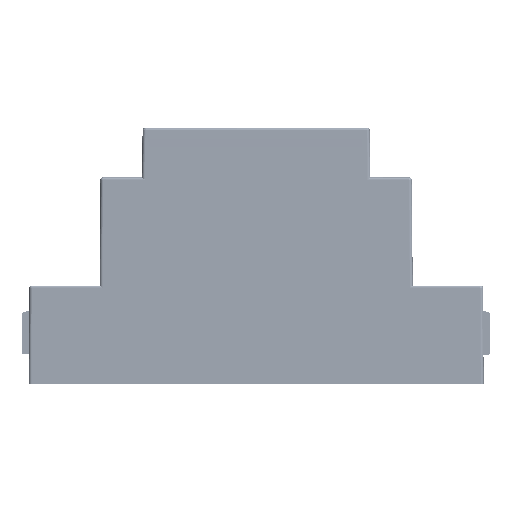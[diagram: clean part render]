
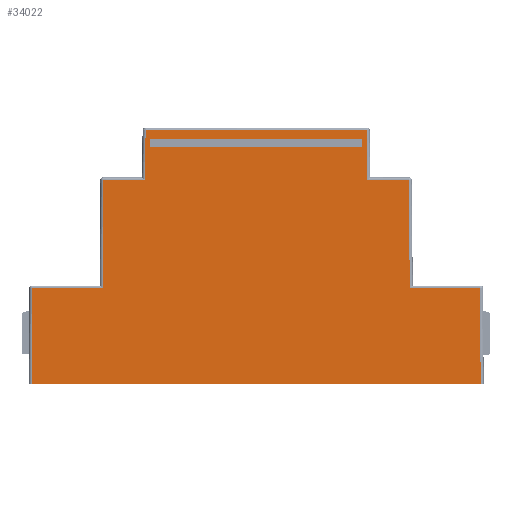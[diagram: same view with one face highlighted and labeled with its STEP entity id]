
A CAD part, front view. The second image highlights one B-rep face of the part: STEP entity #34022.
In plain terms, the highlighted planar face has unit normal (0, -1, 0.009).
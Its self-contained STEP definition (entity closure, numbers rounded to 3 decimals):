
#1642 = CARTESIAN_POINT ( 'NONE',  ( 21.908, -43.461, 50.304 ) ) ;
#2641 = VECTOR ( 'NONE', #312687, 1000. ) ;
#4143 = VERTEX_POINT ( 'NONE', #245751 ) ;
#4402 = CARTESIAN_POINT ( 'NONE',  ( 44.401, -43.734, 19.054 ) ) ;
#5819 = CARTESIAN_POINT ( 'NONE',  ( 30.264, -43.547, 40.504 ) ) ;
#12538 = ORIENTED_EDGE ( 'NONE', *, *, #246697, .F. ) ;
#13570 = CARTESIAN_POINT ( 'NONE',  ( -21.06, -43.49, 46.992 ) ) ;
#20043 = CARTESIAN_POINT ( 'NONE',  ( 0., -43.734, 19.054 ) ) ;
#29622 = DIRECTION ( 'NONE',  ( 1., 0., 0. ) ) ;
#31890 = VERTEX_POINT ( 'NONE', #65861 ) ;
#34022 = ADVANCED_FACE ( 'NONE', ( #205511, #173860 ), #224957, .F. ) ;
#35131 = LINE ( 'NONE', #140511, #156363 ) ;
#37567 = VECTOR ( 'NONE', #29622, 1000. ) ;
#40114 = CARTESIAN_POINT ( 'NONE',  ( -21.908, -43.461, 50.304 ) ) ;
#45057 = ORIENTED_EDGE ( 'NONE', *, *, #201772, .T. ) ;
#45504 = CARTESIAN_POINT ( 'NONE',  ( -44.468, -43.845, 6.351 ) ) ;
#45659 = EDGE_CURVE ( 'NONE', #75614, #31890, #56501, .T. ) ;
#48576 = VERTEX_POINT ( 'NONE', #73511 ) ;
#50215 = DIRECTION ( 'NONE',  ( 1., 0., 0. ) ) ;
#56501 = LINE ( 'NONE', #216263, #156416 ) ;
#65861 = CARTESIAN_POINT ( 'NONE',  ( 30.264, -43.547, 40.504 ) ) ;
#69721 = VECTOR ( 'NONE', #131749, 1000. ) ;
#72285 = CARTESIAN_POINT ( 'NONE',  ( 0., -43.461, 50.304 ) ) ;
#73511 = CARTESIAN_POINT ( 'NONE',  ( -21.036, -43.483, 48.5 ) ) ;
#75614 = VERTEX_POINT ( 'NONE', #129495 ) ;
#76779 = VECTOR ( 'NONE', #143249, 1000. ) ;
#78382 = LINE ( 'NONE', #124002, #163735 ) ;
#80870 = VECTOR ( 'NONE', #113416, 1000. ) ;
#84187 = VERTEX_POINT ( 'NONE', #1642 ) ;
#85304 = EDGE_CURVE ( 'NONE', #107102, #89004, #197154, .T. ) ;
#85896 = EDGE_LOOP ( 'NONE', ( #185722, #311364, #255144, #310492 ) ) ;
#86269 = DIRECTION ( 'NONE',  ( 0.016, -0.009, -1. ) ) ;
#88773 = AXIS2_PLACEMENT_3D ( 'NONE', #145795, #312748, #305843 ) ;
#89004 = VERTEX_POINT ( 'NONE', #278499 ) ;
#89008 = CARTESIAN_POINT ( 'NONE',  ( -22.062, -43.547, 40.504 ) ) ;
#89171 = CARTESIAN_POINT ( 'NONE',  ( -30.264, -43.547, 40.504 ) ) ;
#92316 = EDGE_LOOP ( 'NONE', ( #102520, #94581, #295488, #286866, #185858, #184287, #246589, #218729, #12538, #169421, #45057, #274988 ) ) ;
#94581 = ORIENTED_EDGE ( 'NONE', *, *, #126406, .F. ) ;
#95771 = LINE ( 'NONE', #20043, #166875 ) ;
#95816 = VERTEX_POINT ( 'NONE', #128464 ) ;
#96648 = LINE ( 'NONE', #309237, #2641 ) ;
#99733 = EDGE_CURVE ( 'NONE', #84187, #75614, #35131, .T. ) ;
#102520 = ORIENTED_EDGE ( 'NONE', *, *, #324737, .F. ) ;
#107102 = VERTEX_POINT ( 'NONE', #280847 ) ;
#107197 = LINE ( 'NONE', #72285, #69721 ) ;
#113416 = DIRECTION ( 'NONE',  ( 0.005, -0.009, -1. ) ) ;
#116852 = LINE ( 'NONE', #4402, #80870 ) ;
#117370 = CARTESIAN_POINT ( 'NONE',  ( -21.036, -43.483, 48.5 ) ) ;
#118210 = DIRECTION ( 'NONE',  ( 0.009, -0.009, -1. ) ) ;
#119138 = VECTOR ( 'NONE', #188209, 1000. ) ;
#121129 = CARTESIAN_POINT ( 'NONE',  ( 21.052, -43.486, 47.495 ) ) ;
#124002 = CARTESIAN_POINT ( 'NONE',  ( 0., -43.734, 19.054 ) ) ;
#125896 = EDGE_CURVE ( 'NONE', #319489, #48576, #308384, .T. ) ;
#126258 = CARTESIAN_POINT ( 'NONE',  ( -44.401, -43.734, 19.054 ) ) ;
#126279 = CARTESIAN_POINT ( 'NONE',  ( 44.401, -43.734, 19.054 ) ) ;
#126406 = EDGE_CURVE ( 'NONE', #31890, #148941, #273004, .T. ) ;
#128419 = CARTESIAN_POINT ( 'NONE',  ( -44.501, -43.9, 0. ) ) ;
#128464 = CARTESIAN_POINT ( 'NONE',  ( -22.062, -43.547, 40.504 ) ) ;
#129495 = CARTESIAN_POINT ( 'NONE',  ( 22.062, -43.547, 40.504 ) ) ;
#131749 = DIRECTION ( 'NONE',  ( 1., 0., 0. ) ) ;
#139905 = CARTESIAN_POINT ( 'NONE',  ( -21.06, -43.49, 46.992 ) ) ;
#140511 = CARTESIAN_POINT ( 'NONE',  ( 21.908, -43.461, 50.304 ) ) ;
#143249 = DIRECTION ( 'NONE',  ( 0.016, 0.009, 1. ) ) ;
#145795 = CARTESIAN_POINT ( 'NONE',  ( 0., -43.681, 25.152 ) ) ;
#148941 = VERTEX_POINT ( 'NONE', #184478 ) ;
#156363 = VECTOR ( 'NONE', #86269, 1000. ) ;
#156416 = VECTOR ( 'NONE', #212849, 1000. ) ;
#156447 = CARTESIAN_POINT ( 'NONE',  ( -44.401, -43.734, 19.054 ) ) ;
#162151 = VERTEX_POINT ( 'NONE', #156447 ) ;
#163735 = VECTOR ( 'NONE', #50215, 1000. ) ;
#166312 = CARTESIAN_POINT ( 'NONE',  ( -30.452, -43.734, 19.054 ) ) ;
#166875 = VECTOR ( 'NONE', #232642, 1000. ) ;
#169421 = ORIENTED_EDGE ( 'NONE', *, *, #333824, .F. ) ;
#170375 = CARTESIAN_POINT ( 'NONE',  ( 21.044, -43.481, 47.997 ) ) ;
#173023 = LINE ( 'NONE', #89008, #76779 ) ;
#173860 = FACE_OUTER_BOUND ( 'NONE', #92316, .T. ) ;
#176975 = EDGE_CURVE ( 'NONE', #277054, #48576, #244405, .T. ) ;
#178406 = VERTEX_POINT ( 'NONE', #268399 ) ;
#184287 = ORIENTED_EDGE ( 'NONE', *, *, #203261, .F. ) ;
#184478 = CARTESIAN_POINT ( 'NONE',  ( 30.452, -43.734, 19.054 ) ) ;
#185722 = ORIENTED_EDGE ( 'NONE', *, *, #125896, .F. ) ;
#185858 = ORIENTED_EDGE ( 'NONE', *, *, #239253, .F. ) ;
#188209 = DIRECTION ( 'NONE',  ( 1., 0., 0. ) ) ;
#189193 = CARTESIAN_POINT ( 'NONE',  ( -30.327, -43.609, 33.354 ) ) ;
#197154 = B_SPLINE_CURVE_WITH_KNOTS ( 'NONE', 3,
 ( #166312, #328004, #189193, #89171 ),
 .UNSPECIFIED., .F., .F.,
 ( 4, 4 ),
 ( 0., 1. ),
 .UNSPECIFIED. ) ;
#201162 = B_SPLINE_CURVE_WITH_KNOTS ( 'NONE', 3,
 ( #291486, #45504, #258135, #126258 ),
 .UNSPECIFIED., .F., .F.,
 ( 4, 4 ),
 ( 0., 1. ),
 .UNSPECIFIED. ) ;
#201622 = EDGE_CURVE ( 'NONE', #319489, #4143, #272966, .T. ) ;
#201772 = EDGE_CURVE ( 'NONE', #303109, #178406, #96648, .T. ) ;
#203261 = EDGE_CURVE ( 'NONE', #95816, #234264, #173023, .T. ) ;
#205511 = FACE_BOUND ( 'NONE', #85896, .T. ) ;
#208285 = CARTESIAN_POINT ( 'NONE',  ( 21.036, -43.483, 48.5 ) ) ;
#212849 = DIRECTION ( 'NONE',  ( 1., 0., 0. ) ) ;
#216263 = CARTESIAN_POINT ( 'NONE',  ( 0., -43.547, 40.504 ) ) ;
#218729 = ORIENTED_EDGE ( 'NONE', *, *, #85304, .F. ) ;
#224957 = PLANE ( 'NONE',  #88773 ) ;
#225755 = CARTESIAN_POINT ( 'NONE',  ( 0., -43.477, 48.5 ) ) ;
#227437 = EDGE_CURVE ( 'NONE', #89004, #95816, #262305, .T. ) ;
#228362 = CARTESIAN_POINT ( 'NONE',  ( 21.06, -43.49, 46.992 ) ) ;
#232642 = DIRECTION ( 'NONE',  ( 1., 0., 0. ) ) ;
#234264 = VERTEX_POINT ( 'NONE', #40114 ) ;
#239253 = EDGE_CURVE ( 'NONE', #234264, #84187, #107197, .T. ) ;
#244405 = B_SPLINE_CURVE_WITH_KNOTS ( 'NONE', 3,
 ( #13570, #312319, #331688, #117370 ),
 .UNSPECIFIED., .F., .F.,
 ( 4, 4 ),
 ( 0., 1. ),
 .UNSPECIFIED. ) ;
#245751 = CARTESIAN_POINT ( 'NONE',  ( 21.06, -43.49, 46.992 ) ) ;
#245766 = LINE ( 'NONE', #247495, #37567 ) ;
#246589 = ORIENTED_EDGE ( 'NONE', *, *, #227437, .F. ) ;
#246697 = EDGE_CURVE ( 'NONE', #162151, #107102, #95771, .T. ) ;
#247495 = CARTESIAN_POINT ( 'NONE',  ( 0., -43.49, 46.992 ) ) ;
#255144 = ORIENTED_EDGE ( 'NONE', *, *, #327798, .F. ) ;
#255576 = DIRECTION ( 'NONE',  ( -1., 0., 0. ) ) ;
#258135 = CARTESIAN_POINT ( 'NONE',  ( -44.435, -43.789, 12.703 ) ) ;
#262305 = LINE ( 'NONE', #265747, #119138 ) ;
#265747 = CARTESIAN_POINT ( 'NONE',  ( 0., -43.547, 40.504 ) ) ;
#268399 = CARTESIAN_POINT ( 'NONE',  ( 44.501, -43.9, 0. ) ) ;
#269265 = VERTEX_POINT ( 'NONE', #126279 ) ;
#272966 = B_SPLINE_CURVE_WITH_KNOTS ( 'NONE', 3,
 ( #307534, #170375, #121129, #228362 ),
 .UNSPECIFIED., .F., .F.,
 ( 4, 4 ),
 ( 0., 1. ),
 .UNSPECIFIED. ) ;
#273004 = LINE ( 'NONE', #5819, #286420 ) ;
#274988 = ORIENTED_EDGE ( 'NONE', *, *, #291555, .F. ) ;
#277054 = VERTEX_POINT ( 'NONE', #139905 ) ;
#278499 = CARTESIAN_POINT ( 'NONE',  ( -30.264, -43.547, 40.504 ) ) ;
#280847 = CARTESIAN_POINT ( 'NONE',  ( -30.452, -43.734, 19.054 ) ) ;
#286420 = VECTOR ( 'NONE', #118210, 1000. ) ;
#286866 = ORIENTED_EDGE ( 'NONE', *, *, #99733, .F. ) ;
#291486 = CARTESIAN_POINT ( 'NONE',  ( -44.501, -43.9, 0. ) ) ;
#291555 = EDGE_CURVE ( 'NONE', #269265, #178406, #116852, .T. ) ;
#295488 = ORIENTED_EDGE ( 'NONE', *, *, #45659, .F. ) ;
#303109 = VERTEX_POINT ( 'NONE', #128419 ) ;
#305843 = DIRECTION ( 'NONE',  ( 0., 0.009, 1. ) ) ;
#307534 = CARTESIAN_POINT ( 'NONE',  ( 21.036, -43.483, 48.5 ) ) ;
#308384 = LINE ( 'NONE', #225755, #330729 ) ;
#309237 = CARTESIAN_POINT ( 'NONE',  ( 0., -43.9, 0. ) ) ;
#310492 = ORIENTED_EDGE ( 'NONE', *, *, #176975, .T. ) ;
#311364 = ORIENTED_EDGE ( 'NONE', *, *, #201622, .T. ) ;
#312319 = CARTESIAN_POINT ( 'NONE',  ( -21.052, -43.486, 47.495 ) ) ;
#312687 = DIRECTION ( 'NONE',  ( 1., 0., 0. ) ) ;
#312748 = DIRECTION ( 'NONE',  ( 0., 1., -0.009 ) ) ;
#319489 = VERTEX_POINT ( 'NONE', #208285 ) ;
#324737 = EDGE_CURVE ( 'NONE', #148941, #269265, #78382, .T. ) ;
#327798 = EDGE_CURVE ( 'NONE', #277054, #4143, #245766, .T. ) ;
#328004 = CARTESIAN_POINT ( 'NONE',  ( -30.389, -43.671, 26.204 ) ) ;
#330729 = VECTOR ( 'NONE', #255576, 1000. ) ;
#331688 = CARTESIAN_POINT ( 'NONE',  ( -21.044, -43.481, 47.997 ) ) ;
#333824 = EDGE_CURVE ( 'NONE', #303109, #162151, #201162, .T. ) ;
